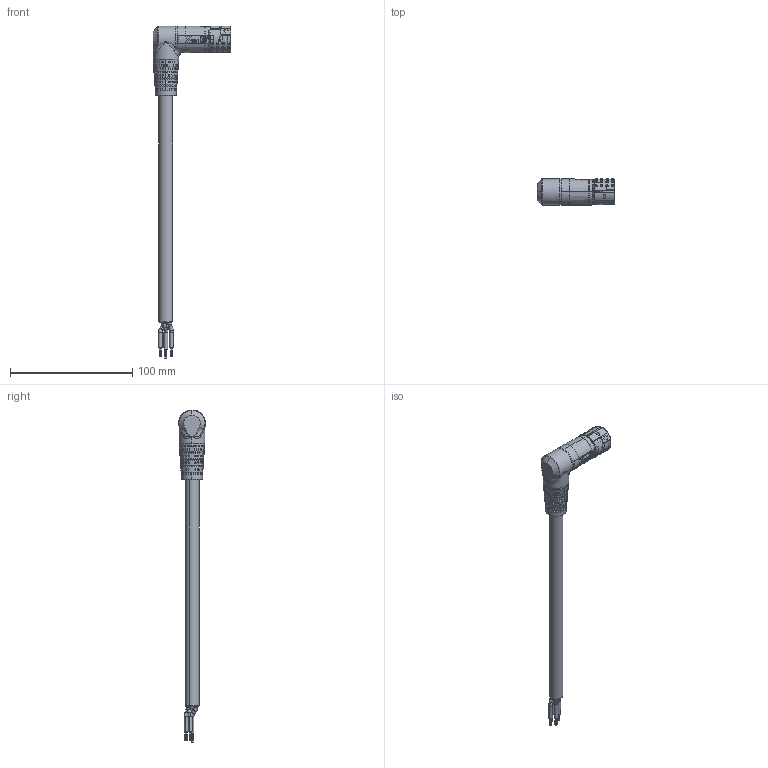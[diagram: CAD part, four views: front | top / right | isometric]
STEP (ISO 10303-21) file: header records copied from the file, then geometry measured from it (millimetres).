
FILE_DESCRIPTION (( 'STEP AP214' ), '1' );
FILE_NAME ('W-TEC 15K GLATT-BU-90°L 4x.STEP', '2021-05-25T10:21:13', ( '' ), ( '' ), 'SwSTEP 2.0', 'SolidWorks 2021', '' );
FILE_SCHEMA (( 'AUTOMOTIVE_DESIGN' ));
Length unit declared in the file: millimetre
Products named in the file (1): W-TEC 15K GLATT-BU-90袂 4x
Bounding box: 63.82 x 21.86 x 271.99 mm (x, y, z)
Surface area: 19079.5 mm2 (no closed solid volume)
Topology: 0 solids, 12 shells, 1760 faces, 4348 edges, 2822 vertices
Faces by surface type: cylinder 673, plane 566, bspline 479, cone 39, torus 3
Entity records: 100977 total; most frequent: CARTESIAN_POINT 43335, ORIENTED_EDGE 8418, DIRECTION 7094, EDGE_CURVE 4277, AXIS2_PLACEMENT_3D 2886, VERTEX_POINT 2822, EDGE_LOOP 2062, UNCERTAINTY_MEASURE_WITH_UNIT 1763
